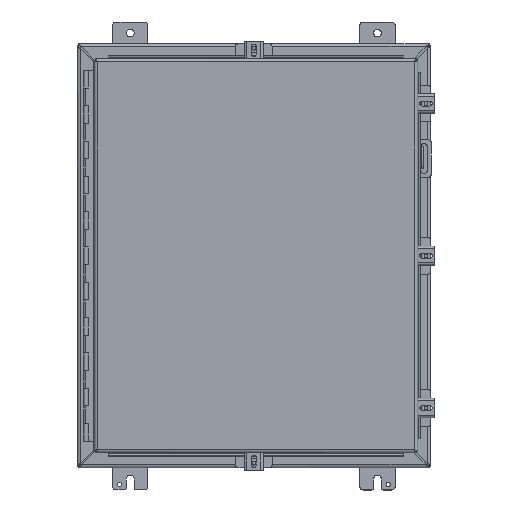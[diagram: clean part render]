
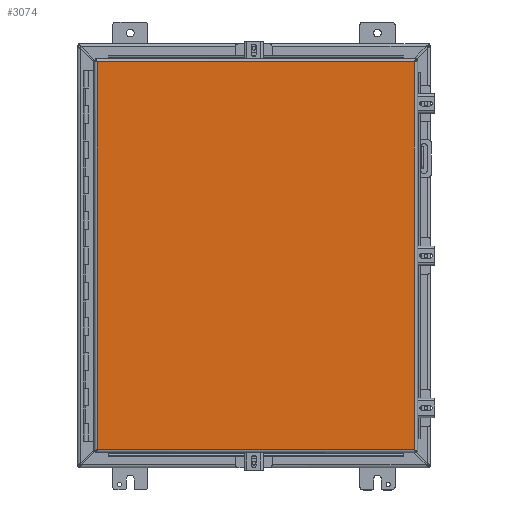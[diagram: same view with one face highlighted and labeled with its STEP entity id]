
A CAD part, top view. The second image highlights one B-rep face of the part: STEP entity #3074.
In plain terms, the highlighted planar face has unit normal (0, 0, 1) as drawn and (0, 0, -1) by its records, which use the part's own axes.
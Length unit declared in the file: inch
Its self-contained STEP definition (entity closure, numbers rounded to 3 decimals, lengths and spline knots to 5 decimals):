
#3074 = ADVANCED_FACE ( 'NONE', ( #21093 ), #21088, .T. ) ;
#3075 = EDGE_LOOP ( 'NONE', ( #3076, #3080, #3083, #3086 ) ) ;
#3076 = ORIENTED_EDGE ( 'NONE', *, *, #3077, .T. ) ;
#3077 = EDGE_CURVE ( 'NONE', #3078, #3079, #21071, .T. ) ;
#3078 = VERTEX_POINT ( 'NONE', #21067 ) ;
#3079 = VERTEX_POINT ( 'NONE', #21065 ) ;
#3080 = ORIENTED_EDGE ( 'NONE', *, *, #3081, .T. ) ;
#3081 = EDGE_CURVE ( 'NONE', #3079, #3082, #21128, .T. ) ;
#3082 = VERTEX_POINT ( 'NONE', #21124 ) ;
#3083 = ORIENTED_EDGE ( 'NONE', *, *, #3084, .T. ) ;
#3084 = EDGE_CURVE ( 'NONE', #3082, #3085, #21122, .T. ) ;
#3085 = VERTEX_POINT ( 'NONE', #21118 ) ;
#3086 = ORIENTED_EDGE ( 'NONE', *, *, #3087, .T. ) ;
#3087 = EDGE_CURVE ( 'NONE', #3085, #3078, #21117, .T. ) ;
#21065 = CARTESIAN_POINT ( 'NONE',  ( -8.985, -10.985, 0. ) ) ;
#21067 = CARTESIAN_POINT ( 'NONE',  ( 8.985, -10.985, 0. ) ) ;
#21068 = DIRECTION ( 'NONE',  ( -1., 0., 0. ) ) ;
#21069 = VECTOR ( 'NONE', #21068, 39.37008 ) ;
#21070 = CARTESIAN_POINT ( 'NONE',  ( 9.08793, -10.985, 0. ) ) ;
#21071 = LINE ( 'NONE', #21070, #21069 ) ;
#21072 = DIRECTION ( 'NONE',  ( -1., 0., 0. ) ) ;
#21073 = DIRECTION ( 'NONE',  ( 0., 0., -1. ) ) ;
#21075 = CARTESIAN_POINT ( 'NONE',  ( -9.095, -11.095, 0. ) ) ;
#21088 = PLANE ( 'NONE',  #21092 ) ;
#21092 = AXIS2_PLACEMENT_3D ( 'NONE', #21075, #21073, #21072 ) ;
#21093 = FACE_OUTER_BOUND ( 'NONE', #3075, .T. ) ;
#21113 = DIRECTION ( 'NONE',  ( 0., -1., 0. ) ) ;
#21114 = VECTOR ( 'NONE', #21113, 39.37008 ) ;
#21116 = CARTESIAN_POINT ( 'NONE',  ( 8.985, 11.08793, 0. ) ) ;
#21117 = LINE ( 'NONE', #21116, #21114 ) ;
#21118 = CARTESIAN_POINT ( 'NONE',  ( 8.985, 10.985, 0. ) ) ;
#21119 = DIRECTION ( 'NONE',  ( 1., 0., 0. ) ) ;
#21120 = VECTOR ( 'NONE', #21119, 39.37008 ) ;
#21121 = CARTESIAN_POINT ( 'NONE',  ( -9.08793, 10.985, 0. ) ) ;
#21122 = LINE ( 'NONE', #21121, #21120 ) ;
#21124 = CARTESIAN_POINT ( 'NONE',  ( -8.985, 10.985, 0. ) ) ;
#21125 = DIRECTION ( 'NONE',  ( 0., 1., 0. ) ) ;
#21126 = VECTOR ( 'NONE', #21125, 39.37008 ) ;
#21127 = CARTESIAN_POINT ( 'NONE',  ( -8.985, -11.08793, 0. ) ) ;
#21128 = LINE ( 'NONE', #21127, #21126 ) ;
